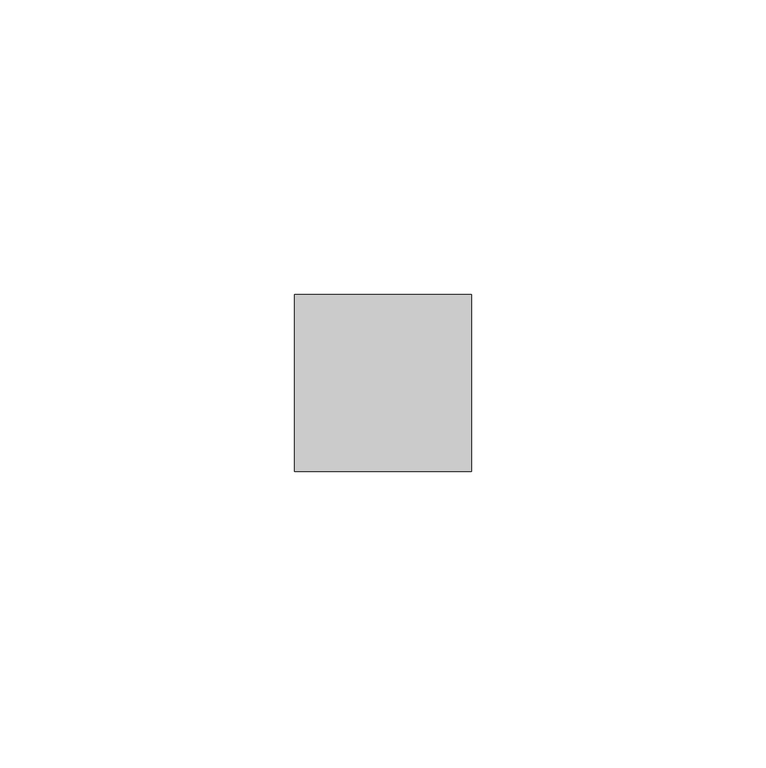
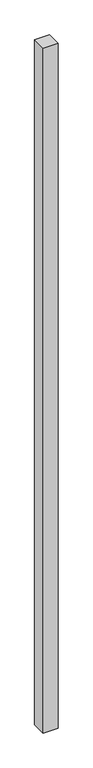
"""IFC4 building model written with IfcOpenShell, lengths in millimetres: member geometry, 矩形竖梃 : 30mm 正方形."""

from ifc_helpers import new_model, si_unit, frame, origin, place, context, project, spatial, polyline, outline, extrude, source, transform, mapped, element, save


def member_416e91fe(model_context):
    return source(origin(), model_context, "Body", "SweptSolid", [
        extrude(outline(polyline([(15.0, 15.0), (15.0, -15.0), (-15.0, -15.0), (-15.0, 15.0), (15.0, 15.0)])), frame((0.0, 0.0, -1470.0000003), z_axis=(0.0, 0.0, 1.0), x_axis=(1.0, 0.0, 0.0)), (0.0, 0.0, 1.0), 1470.0000003),
    ])


if __name__ == "__main__":
    model = new_model("IFC4")
    model_context = context("Model", 3, world=origin())
    ifc_project = project(units=[si_unit("LENGTHUNIT", "METRE", prefix="MILLI")], contexts=[model_context])
    site = spatial("IfcSite", under=ifc_project)
    building = spatial("IfcBuilding", under=site)
    placement = place(None, origin())
    member_shape = member_416e91fe(model_context)
    element("IfcMember", 1, ObjectType="矩形竖梃 : 30mm 正方形", at=placement, inside=building, context=model_context, shape_type="MappedRepresentation", body=[
        mapped(member_shape, transform((0.0, 0.0, 0.0), x_axis=(1.0, 0.0, 0.0), y_axis=(0.0, 1.0, 0.0), z_axis=(0.0, 0.0, 1.0))),
    ])
    save(model, "model.ifc")
